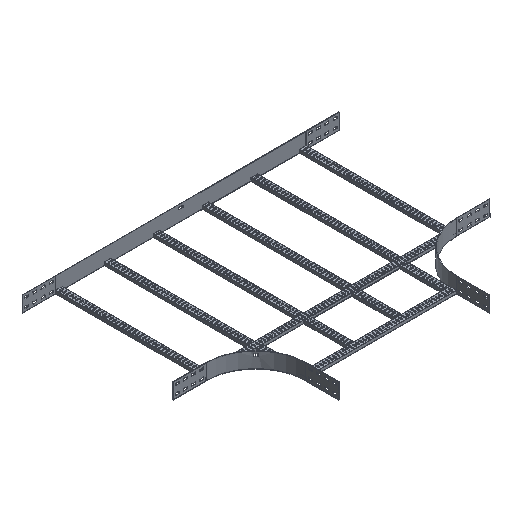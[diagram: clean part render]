
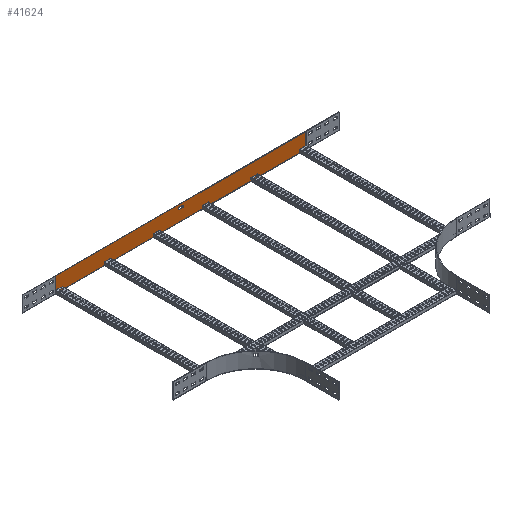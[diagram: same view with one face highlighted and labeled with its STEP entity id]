
A CAD part, isometric view. The second image highlights one B-rep face of the part: STEP entity #41624.
In plain terms, the highlighted planar face has unit normal (0, -1, 0).
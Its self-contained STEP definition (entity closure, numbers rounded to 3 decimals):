
#1842=FACE_BOUND('',#8586,.T.);
#5712=FACE_OUTER_BOUND('',#8585,.T.);
#8585=EDGE_LOOP('',(#38325,#38326,#38327,#38328));
#8586=EDGE_LOOP('',(#38329,#38330,#38331,#38332));
#12608=LINE('',#93081,#16700);
#12610=LINE('',#93087,#16702);
#12613=LINE('',#93092,#16705);
#12620=LINE('',#93105,#16712);
#12621=LINE('',#93109,#16713);
#12622=LINE('',#93111,#16714);
#12623=LINE('',#93113,#16715);
#12624=LINE('',#93114,#16716);
#16700=VECTOR('',#54536,304.8);
#16702=VECTOR('',#54540,304.8);
#16705=VECTOR('',#54545,304.8);
#16712=VECTOR('',#54556,304.8);
#16713=VECTOR('',#54559,304.8);
#16714=VECTOR('',#54560,304.8);
#16715=VECTOR('',#54561,304.8);
#16716=VECTOR('',#54562,304.8);
#20693=VERTEX_POINT('',#93074);
#20696=VERTEX_POINT('',#93079);
#20698=VERTEX_POINT('',#93084);
#20699=VERTEX_POINT('',#93086);
#20705=VERTEX_POINT('',#93107);
#20706=VERTEX_POINT('',#93108);
#20707=VERTEX_POINT('',#93110);
#20708=VERTEX_POINT('',#93112);
#26580=EDGE_CURVE('',#20696,#20693,#12608,.T.);
#26582=EDGE_CURVE('',#20698,#20699,#12610,.T.);
#26585=EDGE_CURVE('',#20693,#20698,#12613,.T.);
#26592=EDGE_CURVE('',#20699,#20696,#12620,.T.);
#26593=EDGE_CURVE('',#20705,#20706,#12621,.T.);
#26594=EDGE_CURVE('',#20706,#20707,#12622,.T.);
#26595=EDGE_CURVE('',#20707,#20708,#12623,.T.);
#26596=EDGE_CURVE('',#20708,#20705,#12624,.T.);
#38325=ORIENTED_EDGE('',*,*,#26580,.F.);
#38326=ORIENTED_EDGE('',*,*,#26592,.F.);
#38327=ORIENTED_EDGE('',*,*,#26582,.F.);
#38328=ORIENTED_EDGE('',*,*,#26585,.F.);
#38329=ORIENTED_EDGE('',*,*,#26593,.T.);
#38330=ORIENTED_EDGE('',*,*,#26594,.T.);
#38331=ORIENTED_EDGE('',*,*,#26595,.T.);
#38332=ORIENTED_EDGE('',*,*,#26596,.T.);
#39616=PLANE('',#44630);
#41624=ADVANCED_FACE('',(#5712,#1842),#39616,.T.);
#44630=AXIS2_PLACEMENT_3D('',#93106,#54557,#54558);
#54536=DIRECTION('',(0.,0.,1.));
#54540=DIRECTION('',(0.,0.,-1.));
#54545=DIRECTION('',(1.,0.,0.));
#54556=DIRECTION('',(-1.,0.,0.));
#54557=DIRECTION('center_axis',(0.,-1.,0.));
#54558=DIRECTION('ref_axis',(1.,0.,0.));
#54559=DIRECTION('',(-1.,0.,0.));
#54560=DIRECTION('',(0.,0.,1.));
#54561=DIRECTION('',(1.,0.,0.));
#54562=DIRECTION('',(0.,0.,-1.));
#93074=CARTESIAN_POINT('',(-755.5,452.5,47.));
#93079=CARTESIAN_POINT('',(-755.5,452.5,-47.));
#93081=CARTESIAN_POINT('',(-755.5,452.5,-47.));
#93084=CARTESIAN_POINT('',(755.5,452.5,47.));
#93086=CARTESIAN_POINT('',(755.5,452.5,-47.));
#93087=CARTESIAN_POINT('',(755.5,452.5,47.));
#93092=CARTESIAN_POINT('',(-755.5,452.5,47.));
#93105=CARTESIAN_POINT('',(-755.5,452.5,-47.));
#93106=CARTESIAN_POINT('Origin',(-755.5,452.5,-47.));
#93107=CARTESIAN_POINT('',(12.5,452.5,20.46));
#93108=CARTESIAN_POINT('',(-12.5,452.5,20.46));
#93109=CARTESIAN_POINT('',(12.5,452.5,20.46));
#93110=CARTESIAN_POINT('',(-12.5,452.5,31.46));
#93111=CARTESIAN_POINT('',(-12.5,452.5,20.46));
#93112=CARTESIAN_POINT('',(12.5,452.5,31.46));
#93113=CARTESIAN_POINT('',(-12.5,452.5,31.46));
#93114=CARTESIAN_POINT('',(12.5,452.5,31.46));
